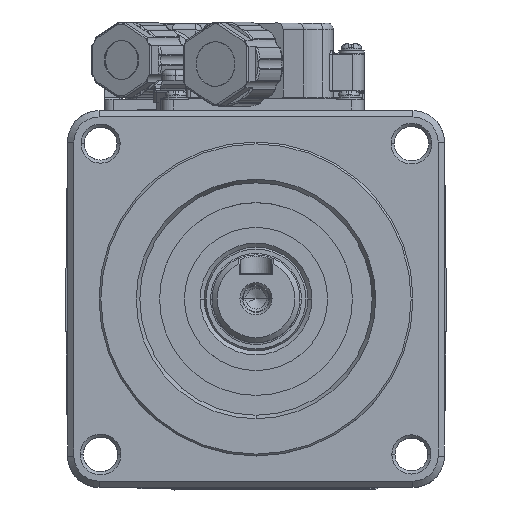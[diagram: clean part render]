
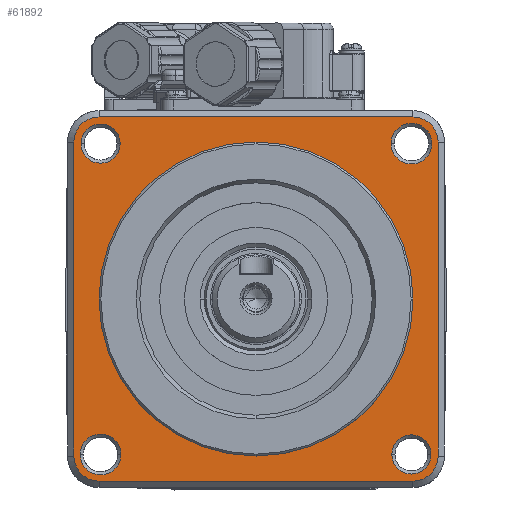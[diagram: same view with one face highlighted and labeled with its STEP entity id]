
A CAD part, top view. The second image highlights one B-rep face of the part: STEP entity #61892.
In plain terms, the highlighted planar face has unit normal (0, 0, 1).
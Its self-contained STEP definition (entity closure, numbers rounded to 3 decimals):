
#10855=CARTESIAN_POINT('',(25.,-25.,87.01));
#10856=DIRECTION('',(0.,0.,-1.));
#10857=DIRECTION('',(1.,0.,0.));
#10858=AXIS2_PLACEMENT_3D('',#10855,#10856,#10857);
#10860=DIRECTION('',(-1.,0.,0.));
#10861=VECTOR('',#10860,50.);
#10862=CARTESIAN_POINT('',(25.,-29.,
87.01));
#10863=LINE('',#10862,#10861);
#10864=CARTESIAN_POINT('',(-25.,-25.,87.01));
#10865=DIRECTION('',(0.,0.,-1.));
#10866=DIRECTION('',(0.,-1.,0.));
#10867=AXIS2_PLACEMENT_3D('',#10864,#10865,#10866);
#10869=DIRECTION('',(0.,1.,0.));
#10870=VECTOR('',#10869,50.);
#10871=CARTESIAN_POINT('',(-29.,-25.,
87.01));
#10872=LINE('',#10871,#10870);
#10873=CARTESIAN_POINT('',(-25.,25.,87.01));
#10874=DIRECTION('',(0.,0.,-1.));
#10875=DIRECTION('',(-1.,0.,0.));
#10876=AXIS2_PLACEMENT_3D('',#10873,#10874,#10875);
#10878=DIRECTION('',(1.,0.,0.));
#10879=VECTOR('',#10878,50.);
#10880=CARTESIAN_POINT('',(-25.,29.,
87.01));
#10881=LINE('',#10880,#10879);
#10882=CARTESIAN_POINT('',(25.,25.,87.01));
#10883=DIRECTION('',(0.,0.,-1.));
#10884=DIRECTION('',(0.,1.,0.));
#10885=AXIS2_PLACEMENT_3D('',#10882,#10883,#10884);
#10887=DIRECTION('',(0.,-1.,0.));
#10888=VECTOR('',#10887,50.);
#10889=CARTESIAN_POINT('',(29.,25.,87.01));
#10890=LINE('',#10889,#10888);
#10891=CARTESIAN_POINT('',(0.,0.,87.01));
#10892=DIRECTION('',(0.,0.,1.));
#10893=DIRECTION('',(0.,-1.,0.));
#10894=AXIS2_PLACEMENT_3D('',#10891,#10892,#10893);
#10896=CARTESIAN_POINT('',(0.,0.,87.01));
#10897=DIRECTION('',(0.,0.,1.));
#10898=DIRECTION('',(0.,1.,0.));
#10899=AXIS2_PLACEMENT_3D('',#10896,#10897,#10898);
#11979=CARTESIAN_POINT('',(24.749,24.749,87.01));
#11980=DIRECTION('',(0.,0.,-1.));
#11981=DIRECTION('',(1.,0.,0.));
#11982=AXIS2_PLACEMENT_3D('',#11979,#11980,#11981);
#11988=CARTESIAN_POINT('',(24.749,24.749,87.01));
#11989=DIRECTION('',(0.,0.,-1.));
#11990=DIRECTION('',(-1.,0.,0.));
#11991=AXIS2_PLACEMENT_3D('',#11988,#11989,#11990);
#12631=CARTESIAN_POINT('',(-24.749,-24.749,87.01));
#12632=DIRECTION('',(0.,0.,-1.));
#12633=DIRECTION('',(1.,0.,0.));
#12634=AXIS2_PLACEMENT_3D('',#12631,#12632,#12633);
#12640=CARTESIAN_POINT('',(-24.749,-24.749,87.01));
#12641=DIRECTION('',(0.,0.,-1.));
#12642=DIRECTION('',(-1.,0.,0.));
#12643=AXIS2_PLACEMENT_3D('',#12640,#12641,#12642);
#13166=CARTESIAN_POINT('',(24.749,-24.749,87.01));
#13167=DIRECTION('',(0.,0.,-1.));
#13168=DIRECTION('',(1.,0.,0.));
#13169=AXIS2_PLACEMENT_3D('',#13166,#13167,#13168);
#13175=CARTESIAN_POINT('',(24.749,-24.749,87.01));
#13176=DIRECTION('',(0.,0.,-1.));
#13177=DIRECTION('',(-1.,0.,0.));
#13178=AXIS2_PLACEMENT_3D('',#13175,#13176,#13177);
#27405=CARTESIAN_POINT('',(-24.749,24.749,87.01));
#27406=DIRECTION('',(0.,0.,-1.));
#27407=DIRECTION('',(1.,0.,0.));
#27408=AXIS2_PLACEMENT_3D('',#27405,#27406,#27407);
#27414=CARTESIAN_POINT('',(-24.749,24.749,87.01));
#27415=DIRECTION('',(0.,0.,-1.));
#27416=DIRECTION('',(-1.,0.,0.));
#27417=AXIS2_PLACEMENT_3D('',#27414,#27415,#27416);
#39694=CARTESIAN_POINT('',(0.,-25.,87.01));
#39695=VERTEX_POINT('',#39694);
#39696=CARTESIAN_POINT('',(0.,25.,87.01));
#39697=VERTEX_POINT('',#39696);
#39706=CARTESIAN_POINT('',(29.,-25.,87.01));
#39707=CARTESIAN_POINT('',(25.,-29.,87.01));
#39708=VERTEX_POINT('',#39706);
#39709=VERTEX_POINT('',#39707);
#39710=CARTESIAN_POINT('',(-25.,-29.,
87.01));
#39711=VERTEX_POINT('',#39710);
#39712=CARTESIAN_POINT('',(-29.,-25.,87.01));
#39713=VERTEX_POINT('',#39712);
#39714=CARTESIAN_POINT('',(-29.,25.,
87.01));
#39715=VERTEX_POINT('',#39714);
#39716=CARTESIAN_POINT('',(-25.,29.,87.01));
#39717=VERTEX_POINT('',#39716);
#39718=CARTESIAN_POINT('',(25.,29.,87.01));
#39719=VERTEX_POINT('',#39718);
#39720=CARTESIAN_POINT('',(29.,25.,87.01));
#39721=VERTEX_POINT('',#39720);
#39979=CARTESIAN_POINT('',(-27.99,-24.749,87.01));
#39980=VERTEX_POINT('',#39979);
#39981=CARTESIAN_POINT('',(-21.507,-24.749,87.01));
#39982=VERTEX_POINT('',#39981);
#39987=CARTESIAN_POINT('',(21.633,-24.749,87.01));
#39988=VERTEX_POINT('',#39987);
#39989=CARTESIAN_POINT('',(27.864,-24.749,87.01));
#39990=VERTEX_POINT('',#39989);
#40119=CARTESIAN_POINT('',(-27.864,24.749,87.01));
#40120=VERTEX_POINT('',#40119);
#40121=CARTESIAN_POINT('',(-21.633,24.749,87.01));
#40122=VERTEX_POINT('',#40121);
#40180=CARTESIAN_POINT('',(21.507,24.749,87.01));
#40181=VERTEX_POINT('',#40180);
#40182=CARTESIAN_POINT('',(27.99,24.749,87.01));
#40183=VERTEX_POINT('',#40182);
#61840=CARTESIAN_POINT('',(0.,0.,87.01));
#61841=DIRECTION('',(0.,0.,1.));
#61842=DIRECTION('',(0.,1.,0.));
#61843=AXIS2_PLACEMENT_3D('',#61840,#61841,#61842);
#61844=PLANE('',#61843);
#61846=ORIENTED_EDGE('',*,*,#61845,.T.);
#61848=ORIENTED_EDGE('',*,*,#61847,.T.);
#61850=ORIENTED_EDGE('',*,*,#61849,.T.);
#61851=ORIENTED_EDGE('',*,*,#61830,.T.);
#61853=ORIENTED_EDGE('',*,*,#61852,.T.);
#61855=ORIENTED_EDGE('',*,*,#61854,.T.);
#61857=ORIENTED_EDGE('',*,*,#61856,.T.);
#61859=ORIENTED_EDGE('',*,*,#61858,.T.);
#61860=EDGE_LOOP('',(#61846,#61848,#61850,#61851,#61853,#61855,#61857,#61859));
#61861=FACE_OUTER_BOUND('',#61860,.F.);
#61863=ORIENTED_EDGE('',*,*,#61862,.T.);
#61865=ORIENTED_EDGE('',*,*,#61864,.T.);
#61866=EDGE_LOOP('',(#61863,#61865));
#61867=FACE_BOUND('',#61866,.F.);
#61869=ORIENTED_EDGE('',*,*,#61868,.F.);
#61871=ORIENTED_EDGE('',*,*,#61870,.F.);
#61872=EDGE_LOOP('',(#61869,#61871));
#61873=FACE_BOUND('',#61872,.F.);
#61875=ORIENTED_EDGE('',*,*,#61874,.F.);
#61877=ORIENTED_EDGE('',*,*,#61876,.F.);
#61878=EDGE_LOOP('',(#61875,#61877));
#61879=FACE_BOUND('',#61878,.F.);
#61881=ORIENTED_EDGE('',*,*,#61880,.F.);
#61883=ORIENTED_EDGE('',*,*,#61882,.F.);
#61884=EDGE_LOOP('',(#61881,#61883));
#61885=FACE_BOUND('',#61884,.F.);
#61887=ORIENTED_EDGE('',*,*,#61886,.F.);
#61889=ORIENTED_EDGE('',*,*,#61888,.F.);
#61890=EDGE_LOOP('',(#61887,#61889));
#61891=FACE_BOUND('',#61890,.F.);
#61892=ADVANCED_FACE('',(#61861,#61867,#61873,#61879,#61885,#61891),#61844,.T.);
#10859=CIRCLE('',#10858,4.);
#10868=CIRCLE('',#10867,4.);
#10877=CIRCLE('',#10876,4.);
#10886=CIRCLE('',#10885,4.);
#10895=CIRCLE('',#10894,25.);
#10900=CIRCLE('',#10899,25.);
#11983=CIRCLE('',#11982,3.241);
#11992=CIRCLE('',#11991,3.241);
#12635=CIRCLE('',#12634,3.241);
#12644=CIRCLE('',#12643,3.241);
#13170=CIRCLE('',#13169,3.116);
#13179=CIRCLE('',#13178,3.116);
#27409=CIRCLE('',#27408,3.116);
#27418=CIRCLE('',#27417,3.116);
#61830=EDGE_CURVE('',#39713,#39715,#10872,.T.);
#61845=EDGE_CURVE('',#39708,#39709,#10859,.T.);
#61847=EDGE_CURVE('',#39709,#39711,#10863,.T.);
#61849=EDGE_CURVE('',#39711,#39713,#10868,.T.);
#61852=EDGE_CURVE('',#39715,#39717,#10877,.T.);
#61854=EDGE_CURVE('',#39717,#39719,#10881,.T.);
#61856=EDGE_CURVE('',#39719,#39721,#10886,.T.);
#61858=EDGE_CURVE('',#39721,#39708,#10890,.T.);
#61862=EDGE_CURVE('',#39695,#39697,#10895,.T.);
#61864=EDGE_CURVE('',#39697,#39695,#10900,.T.);
#61868=EDGE_CURVE('',#39988,#39990,#13179,.T.);
#61870=EDGE_CURVE('',#39990,#39988,#13170,.T.);
#61874=EDGE_CURVE('',#40181,#40183,#11992,.T.);
#61876=EDGE_CURVE('',#40183,#40181,#11983,.T.);
#61880=EDGE_CURVE('',#40120,#40122,#27418,.T.);
#61882=EDGE_CURVE('',#40122,#40120,#27409,.T.);
#61886=EDGE_CURVE('',#39982,#39980,#12635,.T.);
#61888=EDGE_CURVE('',#39980,#39982,#12644,.T.);
